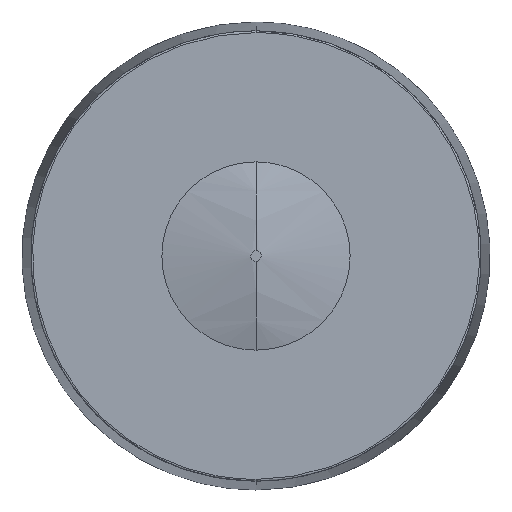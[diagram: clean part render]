
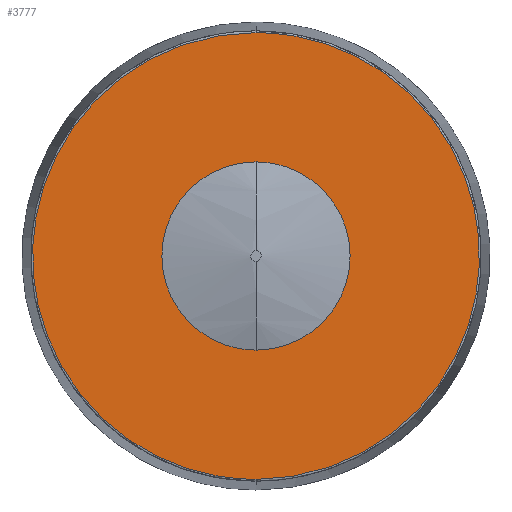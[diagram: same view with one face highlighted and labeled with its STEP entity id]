
A CAD part, front view. The second image highlights one B-rep face of the part: STEP entity #3777.
In plain terms, the highlighted planar face has unit normal (0, -1, 0).
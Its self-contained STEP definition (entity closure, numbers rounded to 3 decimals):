
#202=FACE_BOUND('',#6655,.T.);
#1376=(
BOUNDED_CURVE()
B_SPLINE_CURVE(2,(#70060,#70061,#70062,#70063,#70064),.UNSPECIFIED.,.F.,
 .F.)
B_SPLINE_CURVE_WITH_KNOTS((3,2,3),(0.,41.691,83.382),
 .UNSPECIFIED.)
CURVE()
GEOMETRIC_REPRESENTATION_ITEM()
RATIONAL_B_SPLINE_CURVE((1.,0.707,1.,0.707,1.))
REPRESENTATION_ITEM('')
);
#1377=(
BOUNDED_CURVE()
B_SPLINE_CURVE(2,(#70065,#70066,#70067,#70068,#70069),.UNSPECIFIED.,.F.,
 .F.)
B_SPLINE_CURVE_WITH_KNOTS((3,2,3),(83.382,125.073,166.764),
 .UNSPECIFIED.)
CURVE()
GEOMETRIC_REPRESENTATION_ITEM()
RATIONAL_B_SPLINE_CURVE((1.,0.707,1.,0.707,1.))
REPRESENTATION_ITEM('')
);
#1380=(
BOUNDED_CURVE()
B_SPLINE_CURVE(2,(#70076,#70077,#70078,#70079,#70080),.UNSPECIFIED.,.F.,
 .F.)
B_SPLINE_CURVE_WITH_KNOTS((3,2,3),(197.959,296.938,395.917),
 .UNSPECIFIED.)
CURVE()
GEOMETRIC_REPRESENTATION_ITEM()
RATIONAL_B_SPLINE_CURVE((1.,0.707,1.,0.707,1.))
REPRESENTATION_ITEM('')
);
#1381=(
BOUNDED_CURVE()
B_SPLINE_CURVE(2,(#70081,#70082,#70083,#70084,#70085),.UNSPECIFIED.,.F.,
 .F.)
B_SPLINE_CURVE_WITH_KNOTS((3,2,3),(0.,98.979,197.959),
 .UNSPECIFIED.)
CURVE()
GEOMETRIC_REPRESENTATION_ITEM()
RATIONAL_B_SPLINE_CURVE((1.,0.707,1.,0.707,1.))
REPRESENTATION_ITEM('')
);
#3777=ADVANCED_FACE('',(#5132,#202),#20889,.T.);
#5132=FACE_OUTER_BOUND('',#6654,.T.);
#6654=EDGE_LOOP('',(#12934,#12935));
#6655=EDGE_LOOP('',(#12936,#12937));
#12934=ORIENTED_EDGE('',*,*,#16358,.T.);
#12935=ORIENTED_EDGE('',*,*,#16357,.T.);
#12936=ORIENTED_EDGE('',*,*,#16353,.F.);
#12937=ORIENTED_EDGE('',*,*,#16354,.F.);
#16353=EDGE_CURVE('',#20480,#20481,#1376,.T.);
#16354=EDGE_CURVE('',#20481,#20480,#1377,.T.);
#16357=EDGE_CURVE('',#20483,#20482,#1380,.T.);
#16358=EDGE_CURVE('',#20482,#20483,#1381,.T.);
#20480=VERTEX_POINT('',#69918);
#20481=VERTEX_POINT('',#69919);
#20482=VERTEX_POINT('',#69920);
#20483=VERTEX_POINT('',#69921);
#20889=PLANE('',#21355);
#21355=AXIS2_PLACEMENT_3D('',#69548,#21729,$);
#21729=DIRECTION('',(0.,-1.,0.));
#69548=CARTESIAN_POINT('',(-76.224,-173.955,76.224));
#69918=CARTESIAN_POINT('',(0.,-173.955,-26.541));
#69919=CARTESIAN_POINT('',(0.,-173.955,26.541));
#69920=CARTESIAN_POINT('',(0.,-173.955,-63.012));
#69921=CARTESIAN_POINT('',(0.,-173.955,63.012));
#70060=CARTESIAN_POINT('',(0.,-173.955,-26.541));
#70061=CARTESIAN_POINT('',(26.541,-173.955,-26.541));
#70062=CARTESIAN_POINT('',(26.541,-173.955,0.));
#70063=CARTESIAN_POINT('',(26.541,-173.955,26.541));
#70064=CARTESIAN_POINT('',(0.,-173.955,26.541));
#70065=CARTESIAN_POINT('',(0.,-173.955,26.541));
#70066=CARTESIAN_POINT('',(-26.541,-173.955,26.541));
#70067=CARTESIAN_POINT('',(-26.541,-173.955,0.));
#70068=CARTESIAN_POINT('',(-26.541,-173.955,-26.541));
#70069=CARTESIAN_POINT('',(0.,-173.955,-26.541));
#70076=CARTESIAN_POINT('',(0.,-173.955,63.012));
#70077=CARTESIAN_POINT('',(-63.012,-173.955,63.012));
#70078=CARTESIAN_POINT('',(-63.012,-173.955,0.));
#70079=CARTESIAN_POINT('',(-63.012,-173.955,-63.012));
#70080=CARTESIAN_POINT('',(0.,-173.955,-63.012));
#70081=CARTESIAN_POINT('',(0.,-173.955,-63.012));
#70082=CARTESIAN_POINT('',(63.012,-173.955,-63.012));
#70083=CARTESIAN_POINT('',(63.012,-173.955,0.));
#70084=CARTESIAN_POINT('',(63.012,-173.955,63.012));
#70085=CARTESIAN_POINT('',(0.,-173.955,63.012));
